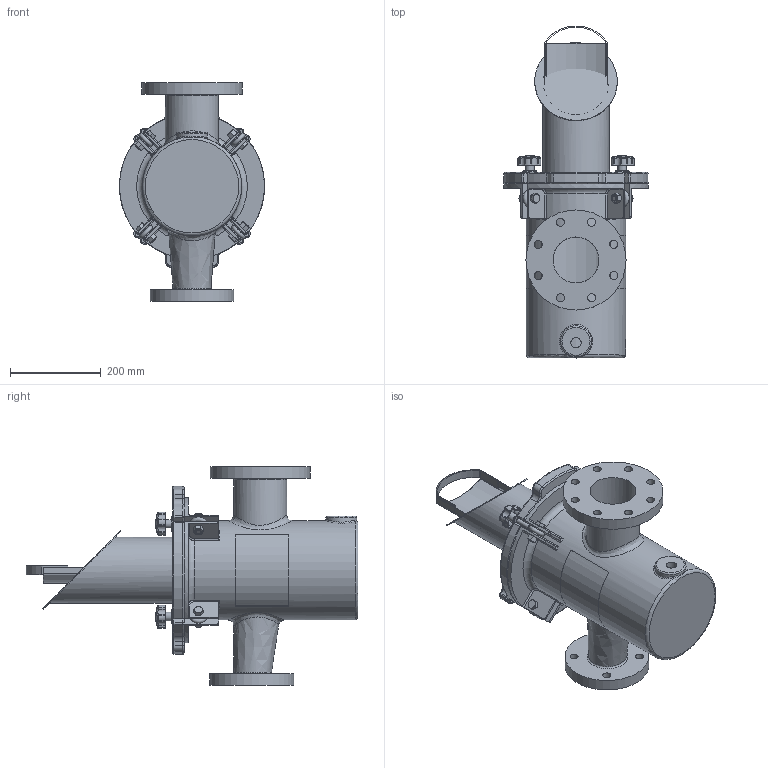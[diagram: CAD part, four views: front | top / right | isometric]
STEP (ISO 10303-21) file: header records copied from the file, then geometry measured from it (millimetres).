
FILE_DESCRIPTION(/* description */ ('100MM X 65MM FIBERGLASS STRAINER BODY'),/* implementation_level */ '2;1');
FILE_NAME(/* name */ 'C:\Users\r.kommineni.ext\Desktop\NB\CAD\Workspace\FG Reducing Strainer\Guardian FG Reducing H&L Strainer (Metric)_CLEARANCE VOLUME\STRAINER H&L 100MM X 65MM.stp',/* time_stamp */ '2017-06-09T13:34:19-04:00',/* author */ ('r.kommineni.ext'),/* organization */ (''),/* preprocessor_version */ 'ST-DEVELOPER v16.1',/* originating_system */ 'Autodesk Inventor 2016',/* authorisation */ '');
FILE_SCHEMA (('CONFIG_CONTROL_DESIGN'));
Length unit declared in the file: inch
Products named in the file (19): NBFGBODY04X25MM; 150NBCVR13R1; 150NBGSK08R1; Perforated Basket 8in; Bride (Ring) 8in; Baffle 8in; Handle 8in; Bottom Strainer 8in; Nut- 1_2  UNC; Bolt-1_2 x 1 1_2  UNC; EyeBolt; Washer; Knob M10; Securing Assembly For FG without Brace; Label for 8.625 inch (Right); Label for 8.625 inch (Left); NBBSK04T316_clearance; NBBSK04T316_clearance_1; STRAINER H&L 100MM X 65MM
Assembly tree (21 placements, depth 3):
  STRAINER H&L 100MM X 65MM
    NBFGBODY04X25MM
    150NBCVR13R1
    150NBGSK08R1
    NBBSK04T316_clearance_1
      Perforated Basket 8in
      Bride (Ring) 8in
      Baffle 8in
      Handle 8in
      Bottom Strainer 8in
      NBBSK04T316_clearance
    Securing Assembly For FG without Brace  x4
      Nut- 1_2  UNC
      Bolt-1_2 x 1 1_2  UNC
      EyeBolt
      Washer
      Knob M10
    Label for 8.625 inch (Right)
    Label for 8.625 inch (Left)
Bounding box: 320.68 x 733.12 x 482.6 mm (x, y, z)
Volume: 7326153.7 mm3; surface area: 1982386.9 mm2
Topology: 30 solids, 34 shells, 948 faces, 2200 edges, 1315 vertices
Faces by surface type: cylinder 350, plane 262, torus 93, cone 92, bspline 83, sphere 68
Full cylindrical faces by diameter (mm): 3.175 x10, 6.35 x2, 8.382 x4, 9.525 x9, 10.592 x4, 12.7 x4, 15.875 x8, 17.78 x12, 19 x8, 19.05 x4, 22.809 x1, 31.75 x4, 68.263 x1, 101.6 x1, 117.475 x1, 142.875 x2, 146.05 x2, 185.42 x1, 203.2 x2, 212.725 x1, 219.075 x1, 220.98 x1, 222.25 x1, 257.175 x1, 263.525 x1
Entity records: 22272 total; most frequent: CARTESIAN_POINT 8258, DIRECTION 2920, ORIENTED_EDGE 2574, EDGE_CURVE 1312, AXIS2_PLACEMENT_3D 1219, VERTEX_POINT 841, EDGE_LOOP 755, CIRCLE 598
